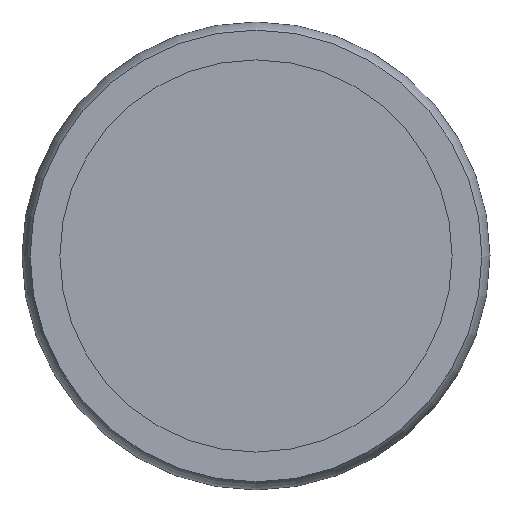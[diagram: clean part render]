
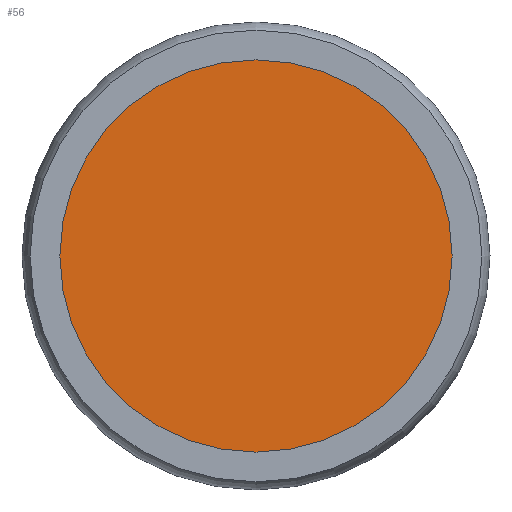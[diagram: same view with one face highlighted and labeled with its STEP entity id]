
A CAD part, front view. The second image highlights one B-rep face of the part: STEP entity #56.
In plain terms, the highlighted planar face has unit normal (0, -1, 0).
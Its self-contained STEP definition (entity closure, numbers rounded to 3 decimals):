
#56=ADVANCED_FACE('',(#93),#95,.T.);
#93=FACE_BOUND('',#94,.T.);
#94=EDGE_LOOP('',(#204));
#95=PLANE('',#96);
#96=AXIS2_PLACEMENT_3D('',#97,#98,#99);
#97=CARTESIAN_POINT('',(0.,-58.,0.));
#98=DIRECTION('',(0.,-1.,0.));
#99=DIRECTION('',(0.,0.,-1.));
#204=ORIENTED_EDGE('',*,*,#229,.T.);
#229=EDGE_CURVE('',#244,#244,#245,.T.);
#244=VERTEX_POINT('',#274);
#245=CIRCLE('',#275,9.55);
#274=CARTESIAN_POINT('',(0.,-58.,9.55));
#275=AXIS2_PLACEMENT_3D('',#276,#277,#278);
#276=CARTESIAN_POINT('',(0.,-58.,0.));
#277=DIRECTION('',(0.,-1.,0.));
#278=DIRECTION('',(0.,0.,1.));
